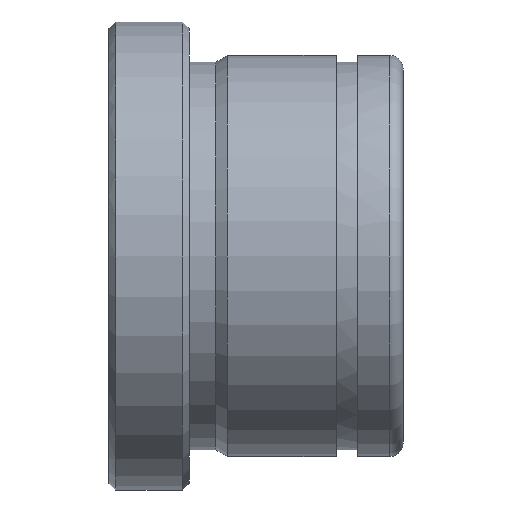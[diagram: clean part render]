
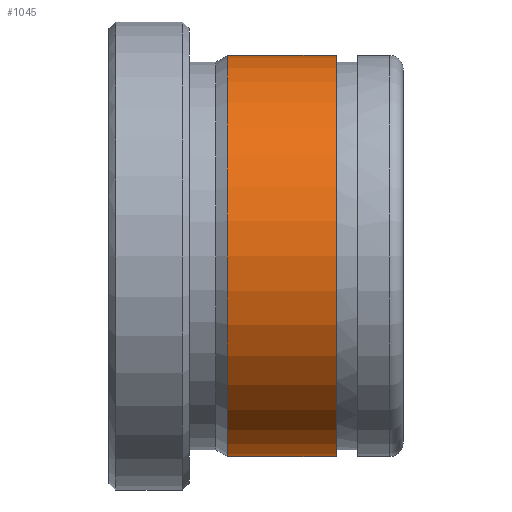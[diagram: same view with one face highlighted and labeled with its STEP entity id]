
A CAD part, front view. The second image highlights one B-rep face of the part: STEP entity #1045.
In plain terms, the highlighted cylindrical face has radius 15 mm (diameter 30 mm), a partial arc.
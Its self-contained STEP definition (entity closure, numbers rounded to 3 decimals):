
#851=CARTESIAN_POINT('Vertex',(8.866,0.,-15.)) ;
#858=CARTESIAN_POINT('Vertex',(8.866,0.,15.)) ;
#887=CARTESIAN_POINT('Axis2P3D Location',(8.866,0.,0.)) ;
#891=CARTESIAN_POINT('Vertex',(8.866,-15.,0.)) ;
#894=CARTESIAN_POINT('Axis2P3D Location',(8.866,0.,0.)) ;
#985=CARTESIAN_POINT('Line Origine',(44.,0.,15.)) ;
#989=CARTESIAN_POINT('Vertex',(17.,0.,15.)) ;
#1003=CARTESIAN_POINT('Vertex',(17.,0.,-15.)) ;
#1006=CARTESIAN_POINT('Line Origine',(44.,0.,-15.)) ;
#1020=CARTESIAN_POINT('Axis2P3D Location',(44.,0.,0.)) ;
#1025=CARTESIAN_POINT('Axis2P3D Location',(17.,0.,0.)) ;
#1029=CARTESIAN_POINT('Vertex',(17.,-15.,0.)) ;
#1032=CARTESIAN_POINT('Axis2P3D Location',(17.,0.,0.)) ;
#888=DIRECTION('Axis2P3D Direction',(1.,0.,-0.)) ;
#895=DIRECTION('Axis2P3D Direction',(1.,0.,-0.)) ;
#986=DIRECTION('Vector Direction',(-1.,0.,0.)) ;
#1007=DIRECTION('Vector Direction',(-1.,0.,0.)) ;
#1021=DIRECTION('Axis2P3D Direction',(-1.,-0.,-0.)) ;
#1022=DIRECTION('Axis2P3D XDirection',(0.,0.,-1.)) ;
#1026=DIRECTION('Axis2P3D Direction',(-1.,-0.,-0.)) ;
#1033=DIRECTION('Axis2P3D Direction',(-1.,-0.,-0.)) ;
#889=AXIS2_PLACEMENT_3D('Circle Axis2P3D',#887,#888,$) ;
#896=AXIS2_PLACEMENT_3D('Circle Axis2P3D',#894,#895,$) ;
#1023=AXIS2_PLACEMENT_3D('Cylinder Axis2P3D',#1020,#1021,#1022) ;
#1027=AXIS2_PLACEMENT_3D('Circle Axis2P3D',#1025,#1026,$) ;
#1034=AXIS2_PLACEMENT_3D('Circle Axis2P3D',#1032,#1033,$) ;
#1038=ORIENTED_EDGE('',*,*,#1010,.T.) ;
#1039=ORIENTED_EDGE('',*,*,#1031,.F.) ;
#1040=ORIENTED_EDGE('',*,*,#1036,.F.) ;
#1041=ORIENTED_EDGE('',*,*,#991,.T.) ;
#1042=ORIENTED_EDGE('',*,*,#898,.T.) ;
#1043=ORIENTED_EDGE('',*,*,#893,.T.) ;
#987=VECTOR('Line Direction',#986,1.) ;
#1008=VECTOR('Line Direction',#1007,1.) ;
#1045=ADVANCED_FACE('553-24X22',(#1044),#1024,.T.) ;
#890=CIRCLE('generated circle',#889,15.) ;
#897=CIRCLE('generated circle',#896,15.) ;
#1028=CIRCLE('generated circle',#1027,15.) ;
#1035=CIRCLE('generated circle',#1034,15.) ;
#1024=CYLINDRICAL_SURFACE('generated cylinder',#1023,15.) ;
#893=EDGE_CURVE('',#892,#852,#890,.T.) ;
#898=EDGE_CURVE('',#859,#892,#897,.T.) ;
#991=EDGE_CURVE('',#990,#859,#988,.T.) ;
#1010=EDGE_CURVE('',#852,#1004,#1009,.F.) ;
#1031=EDGE_CURVE('',#1030,#1004,#1028,.F.) ;
#1036=EDGE_CURVE('',#990,#1030,#1035,.F.) ;
#1037=EDGE_LOOP('',(#1038,#1039,#1040,#1041,#1042,#1043)) ;
#1044=FACE_OUTER_BOUND('',#1037,.T.) ;
#988=LINE('Line',#985,#987) ;
#1009=LINE('Line',#1006,#1008) ;
#852=VERTEX_POINT('',#851) ;
#859=VERTEX_POINT('',#858) ;
#892=VERTEX_POINT('',#891) ;
#990=VERTEX_POINT('',#989) ;
#1004=VERTEX_POINT('',#1003) ;
#1030=VERTEX_POINT('',#1029) ;
